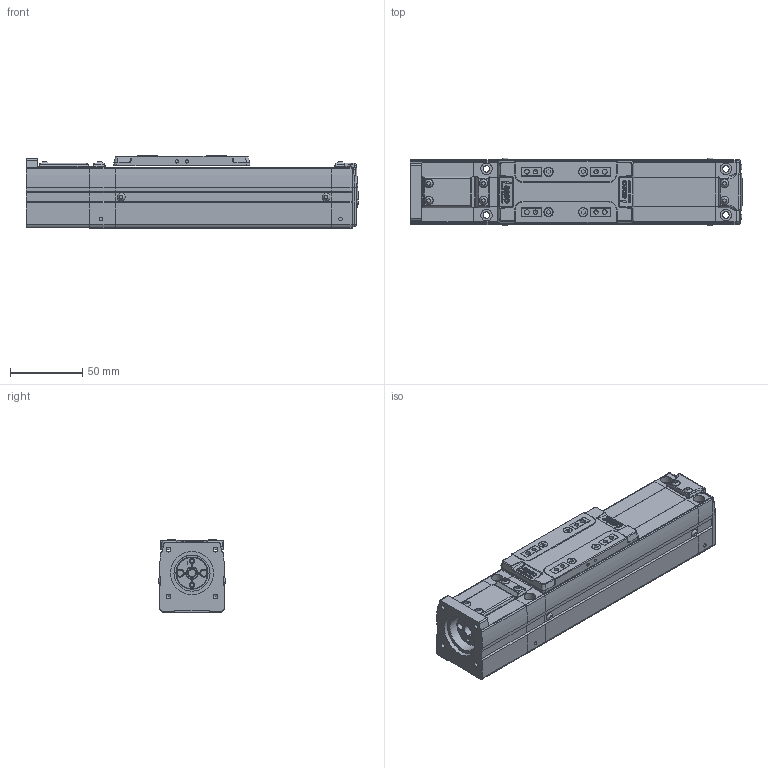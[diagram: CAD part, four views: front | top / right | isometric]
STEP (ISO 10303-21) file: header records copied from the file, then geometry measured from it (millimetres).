
FILE_DESCRIPTION(('STEP AP214'),'1');
FILE_NAME('Z:/Web/3D/SAN45/STP/SAN45ㅁㅁ-050S.stp','2012-06-15T03:55:39',(' '),(' '),'Spatial InterOp 3D',' ',' ');
FILE_SCHEMA(('automotive_design'));
Length unit declared in the file: metre
Products named in the file (63): SAN45__-050; BODY-SAN45; REAR-SAN45; RRCV-SAN45; BHCS M3 x 6L; BHCS M3 X 6L; FRONT-SAN45; SHAFT; RN8 x 0.75; SSFX-SAN45; SLIDE-SAN45; SLCV-IM45; FHCS M3 x 6L; ____91; S; MTHZ-SAN45; SDWB 22C-6-8; SDWB22C(2); SDWB22C(2)_1; SDWB22C(3); SDWB22C(3)_1; SDWB22C(3)_2; SDWB22C(3)_3; SDWB22C(3)_4; SDWB22C(3)_5; SDWB22C(3)_6; SDWB22C(3)_7; SDWB22C(3)_8; SDWB22C(3)_9; SDWB22C(3)_10; SDWB22C(3)_11; SDWB22C(3)_12; SDWB22C(3)_13; SDWB22C(3)_14; SDWB22C(3)_15; SDWB22C(4); SDWB22C(5); SDWB22C(5)_1; SDWB22C(5)_2; SDWB22C(5)_3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
Assembly tree (62 placements, depth 4):
  ____91
    SAN45__-050
      BODY-SAN45
      REAR-SAN45
        REAR-SAN45
        RRCV-SAN45
        BHCS M3 x 6L
        BHCS M3 X 6L
        BHCS M3 x 6L
        BHCS M3 x 6L
        BHCS M3 x 6L
        BHCS M3 x 6L
      FRONT-SAN45
        FRONT-SAN45
        SHAFT
        RN8 x 0.75
        SSFX-SAN45
        BHCS M3 x 6L
        BHCS M3 x 6L
        BHCS M3 x 6L
        BHCS M3 x 6L
      SLIDE-SAN45
        SLIDE-SAN45
        SLCV-IM45
        FHCS M3 x 6L
        FHCS M3 x 6L
        FHCS M3 x 6L
        FHCS M3 x 6L
    S
      MTHZ-SAN45
      SDWB 22C-6-8
        SDWB22C(2)
        SDWB22C(2)_1
        SDWB22C(3)
        SDWB22C(3)_1
        SDWB22C(3)_2
        SDWB22C(3)_3
        SDWB22C(3)_4
        SDWB22C(3)_5
        SDWB22C(3)_6
        SDWB22C(3)_7
        SDWB22C(3)_8
        SDWB22C(3)_9
        SDWB22C(3)_10
        SDWB22C(3)_11
        SDWB22C(3)_12
        SDWB22C(3)_13
        SDWB22C(3)_14
        SDWB22C(3)_15
        SDWB22C(4)
        SDWB22C(5)
        SDWB22C(5)_1
        SDWB22C(5)_2
        SDWB22C(5)_3
        SDWB22C(5)_4
        SDWB22C(5)_5
        SDWB22C(5)_6
        SDWB22C(5)_7
        SDWA22C(1)
        SDWA22C(1)
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Bounding box: 230.15 x 47.13 x 50 mm (x, y, z)
Volume: 420088.6 mm3; surface area: 101885 mm2
Topology: 56 solids, 56 shells, 1799 faces, 4611 edges, 2998 vertices
Faces by surface type: plane 1031, cylinder 549, cone 139, bspline 42, sphere 24, torus 11, extrusion 3
Full cylindrical faces by diameter (mm): 0.376 x2, 0.47 x1, 1.137 x2, 1.421 x1, 1.665 x4, 2.081 x2, 2.2 x4, 2.5 x39, 2.6 x14, 2.7 x2, 3 x10, 3.193 x4, 3.3 x8, 3.4 x4, 3.5 x8, 3.991 x2, 4.2 x3, 4.5 x28, 4.9 x2, 5 x13, 6 x9, 7 x1, 8 x9, 9 x1, 10.7 x2, 13 x1, 15 x1, 19 x1, 22.2 x3, 25 x1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
Entity records: 72301 total; most frequent: CARTESIAN_POINT 13835, DIRECTION 9051, ORIENTED_EDGE 8340, EDGE_CURVE 4170, AXIS2_PLACEMENT_3D 3211, VERTEX_POINT 2879, VECTOR 2629, LINE 2626
